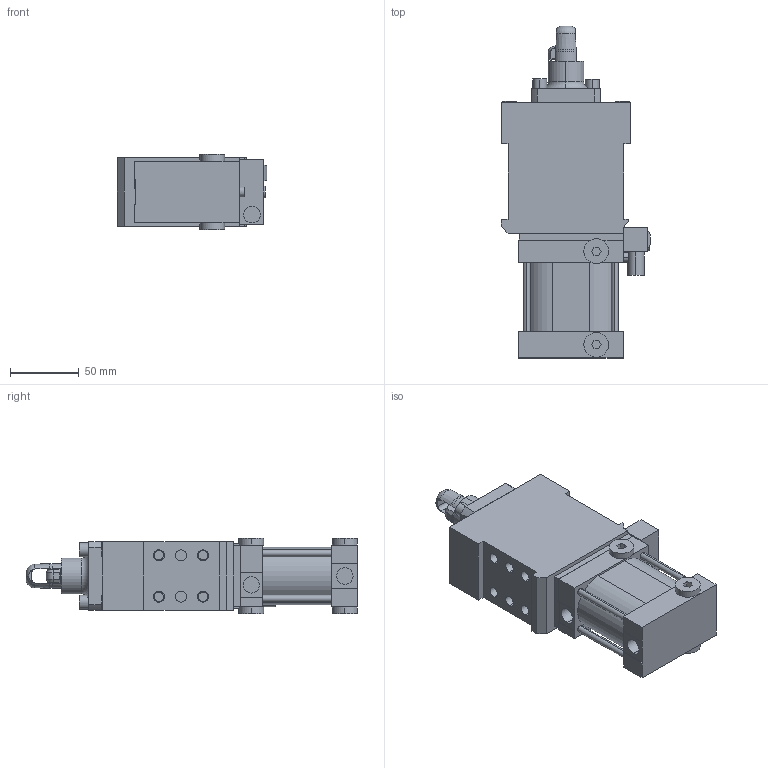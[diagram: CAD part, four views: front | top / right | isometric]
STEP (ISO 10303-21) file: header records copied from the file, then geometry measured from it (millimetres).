
FILE_DESCRIPTION (( 'STEP AP203' ), '1' );
FILE_NAME ('dca50ri-09460nt3.STEP', '2019-09-02T09:22:16', ( '' ), ( '' ), 'SwSTEP 2.0', 'SolidWorks 2019', '' );
FILE_SCHEMA (( 'CONFIG_CONTROL_DESIGN' ));
Length unit declared in the file: millimetre
Products named in the file (1): dca50ri-09460nt3
Bounding box: 108.6 x 241 x 55 mm (x, y, z)
Volume: 735152.3 mm3; surface area: 116761.5 mm2
Topology: 11 solids, 11 shells, 444 faces, 1033 edges, 677 vertices
Faces by surface type: plane 263, cylinder 152, cone 21, torus 8
Entity records: 12865 total; most frequent: CARTESIAN_POINT 2369, DIRECTION 2222, ORIENTED_EDGE 2066, EDGE_CURVE 1033, AXIS2_PLACEMENT_3D 782, VERTEX_POINT 677, LINE 658, VECTOR 658
